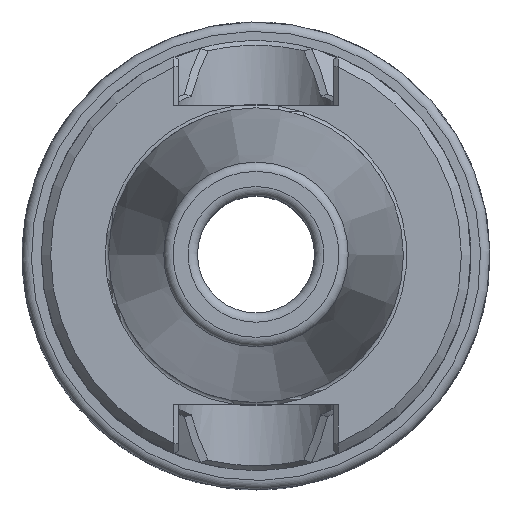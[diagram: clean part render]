
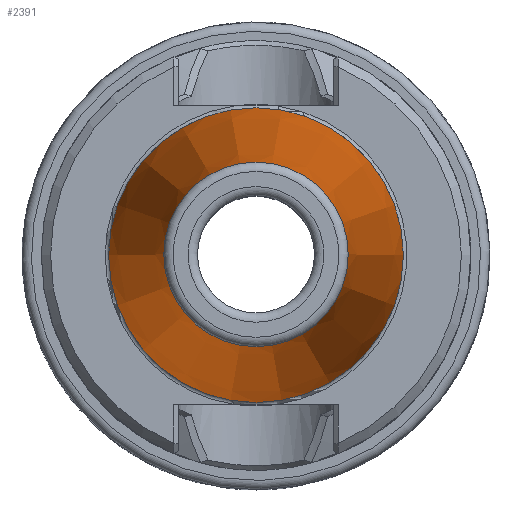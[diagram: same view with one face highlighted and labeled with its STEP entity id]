
A CAD part, top view. The second image highlights one B-rep face of the part: STEP entity #2391.
In plain terms, the highlighted conical face has half-angle 6.981 degrees and reference radius 12.75 mm.
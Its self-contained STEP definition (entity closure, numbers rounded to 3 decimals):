
#371=FACE_OUTER_BOUND('',#501,.T.);
#501=EDGE_LOOP('',(#1963,#1964,#1965,#1966,#1967,#1968));
#614=LINE('',#4530,#728);
#728=VECTOR('',#3001,12.75);
#840=CIRCLE('',#2607,15.75);
#841=CIRCLE('',#2608,15.75);
#843=CIRCLE('',#2611,9.858);
#844=CIRCLE('',#2612,9.858);
#1052=VERTEX_POINT('',#4518);
#1053=VERTEX_POINT('',#4519);
#1054=VERTEX_POINT('',#4524);
#1055=VERTEX_POINT('',#4526);
#1378=EDGE_CURVE('',#1052,#1053,#840,.T.);
#1379=EDGE_CURVE('',#1053,#1052,#841,.T.);
#1382=EDGE_CURVE('',#1054,#1055,#843,.T.);
#1383=EDGE_CURVE('',#1055,#1054,#844,.T.);
#1384=EDGE_CURVE('',#1054,#1053,#614,.T.);
#1963=ORIENTED_EDGE('',*,*,#1383,.F.);
#1964=ORIENTED_EDGE('',*,*,#1382,.F.);
#1965=ORIENTED_EDGE('',*,*,#1384,.T.);
#1966=ORIENTED_EDGE('',*,*,#1379,.T.);
#1967=ORIENTED_EDGE('',*,*,#1378,.T.);
#1968=ORIENTED_EDGE('',*,*,#1384,.F.);
#2316=CONICAL_SURFACE('',#2613,12.75,0.122);
#2391=ADVANCED_FACE('',(#371),#2316,.T.);
#2607=AXIS2_PLACEMENT_3D('',#4520,#2986,#2987);
#2608=AXIS2_PLACEMENT_3D('',#4521,#2988,#2989);
#2611=AXIS2_PLACEMENT_3D('',#4527,#2995,#2996);
#2612=AXIS2_PLACEMENT_3D('',#4528,#2997,#2998);
#2613=AXIS2_PLACEMENT_3D('',#4529,#2999,#3000);
#2986=DIRECTION('center_axis',(0.,0.,1.));
#2987=DIRECTION('ref_axis',(1.,0.,0.));
#2988=DIRECTION('center_axis',(0.,0.,1.));
#2989=DIRECTION('ref_axis',(1.,0.,0.));
#2995=DIRECTION('center_axis',(0.,0.,1.));
#2996=DIRECTION('ref_axis',(-1.,0.,0.));
#2997=DIRECTION('center_axis',(0.,0.,1.));
#2998=DIRECTION('ref_axis',(-1.,0.,0.));
#2999=DIRECTION('center_axis',(0.,0.,-1.));
#3000=DIRECTION('ref_axis',(1.,0.,0.));
#3001=DIRECTION('',(-0.122,0.,-0.993));
#4518=CARTESIAN_POINT('',(15.75,0.,-49.));
#4519=CARTESIAN_POINT('',(-15.75,0.,-49.));
#4520=CARTESIAN_POINT('Origin',(0.,0.,-49.));
#4521=CARTESIAN_POINT('Origin',(0.,0.,-49.));
#4524=CARTESIAN_POINT('',(-9.858,0.,-0.878));
#4526=CARTESIAN_POINT('',(9.858,0.,-0.878));
#4527=CARTESIAN_POINT('Origin',(0.,0.,
-0.878));
#4528=CARTESIAN_POINT('Origin',(0.,0.,
-0.878));
#4529=CARTESIAN_POINT('Origin',(0.,0.,-24.5));
#4530=CARTESIAN_POINT('',(-12.75,0.,-24.5));
